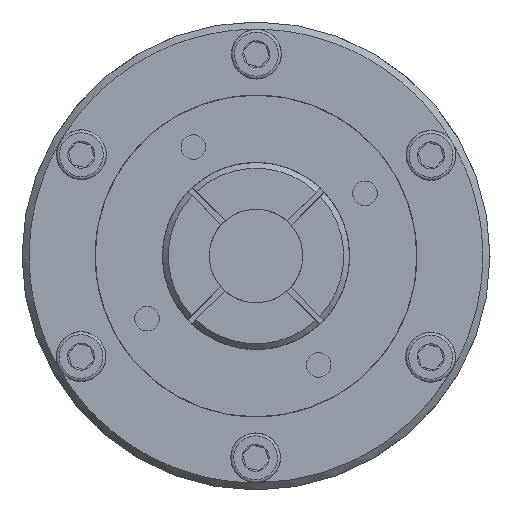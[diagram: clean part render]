
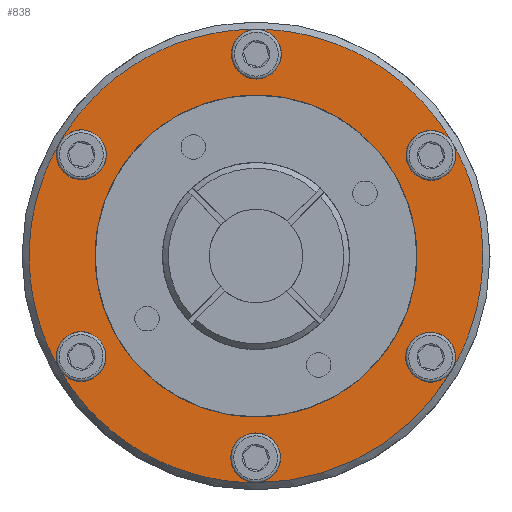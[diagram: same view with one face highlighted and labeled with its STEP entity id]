
A CAD part, left-side view. The second image highlights one B-rep face of the part: STEP entity #838.
In plain terms, the highlighted planar face has unit normal (-1, 0, 0).
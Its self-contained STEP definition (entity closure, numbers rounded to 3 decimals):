
#838 = ADVANCED_FACE( '', ( #1719, #1720 ), #1721, .F. );
#1719 = FACE_OUTER_BOUND( '', #2959, .T. );
#1720 = FACE_BOUND( '', #2960, .T. );
#1721 = PLANE( '', #2961 );
#2959 = EDGE_LOOP( '', ( #4808, #4809, #4810, #4811, #4812, #4813, #4814, #4815, #4816, #4817, #4818, #4819 ) );
#2960 = EDGE_LOOP( '', ( #4820 ) );
#2961 = AXIS2_PLACEMENT_3D( '', #4821, #4822, #4823 );
#4808 = ORIENTED_EDGE( '', *, *, #7612, .T. );
#4809 = ORIENTED_EDGE( '', *, *, #7605, .T. );
#4810 = ORIENTED_EDGE( '', *, *, #7613, .T. );
#4811 = ORIENTED_EDGE( '', *, *, #7604, .T. );
#4812 = ORIENTED_EDGE( '', *, *, #7610, .T. );
#4813 = ORIENTED_EDGE( '', *, *, #7609, .T. );
#4814 = ORIENTED_EDGE( '', *, *, #7614, .T. );
#4815 = ORIENTED_EDGE( '', *, *, #7608, .T. );
#4816 = ORIENTED_EDGE( '', *, *, #7615, .T. );
#4817 = ORIENTED_EDGE( '', *, *, #7607, .T. );
#4818 = ORIENTED_EDGE( '', *, *, #7616, .T. );
#4819 = ORIENTED_EDGE( '', *, *, #7606, .T. );
#4820 = ORIENTED_EDGE( '', *, *, #7617, .F. );
#4821 = CARTESIAN_POINT( '', ( -13.499, 40., 0. ) );
#4822 = DIRECTION( '', ( 1., 0., 0. ) );
#4823 = DIRECTION( '', ( 0., 1., 0. ) );
#7604 = EDGE_CURVE( '', #8758, #8759, #8760, .F. );
#7605 = EDGE_CURVE( '', #8761, #8758, #8762, .F. );
#7606 = EDGE_CURVE( '', #8763, #8761, #8764, .F. );
#7607 = EDGE_CURVE( '', #8765, #8763, #8766, .F. );
#7608 = EDGE_CURVE( '', #8767, #8765, #8768, .F. );
#7609 = EDGE_CURVE( '', #8759, #8767, #8769, .F. );
#7610 = EDGE_CURVE( '', #8759, #8759, #8770, .T. );
#7612 = EDGE_CURVE( '', #8761, #8761, #8773, .T. );
#7613 = EDGE_CURVE( '', #8758, #8758, #8774, .T. );
#7614 = EDGE_CURVE( '', #8767, #8767, #8775, .T. );
#7615 = EDGE_CURVE( '', #8765, #8765, #8776, .T. );
#7616 = EDGE_CURVE( '', #8763, #8763, #8777, .T. );
#7617 = EDGE_CURVE( '', #8778, #8778, #8779, .F. );
#8758 = VERTEX_POINT( '', #10446 );
#8759 = VERTEX_POINT( '', #10447 );
#8760 = CIRCLE( '', #10448, 38.75 );
#8761 = VERTEX_POINT( '', #10449 );
#8762 = CIRCLE( '', #10450, 38.75 );
#8763 = VERTEX_POINT( '', #10451 );
#8764 = CIRCLE( '', #10452, 38.75 );
#8765 = VERTEX_POINT( '', #10453 );
#8766 = CIRCLE( '', #10454, 38.75 );
#8767 = VERTEX_POINT( '', #10455 );
#8768 = CIRCLE( '', #10456, 38.75 );
#8769 = CIRCLE( '', #10457, 38.75 );
#8770 = CIRCLE( '', #10458, 4.25 );
#8773 = CIRCLE( '', #10461, 4.25 );
#8774 = CIRCLE( '', #10462, 4.25 );
#8775 = CIRCLE( '', #10463, 4.25 );
#8776 = CIRCLE( '', #10464, 4.25 );
#8777 = CIRCLE( '', #10465, 4.25 );
#8778 = VERTEX_POINT( '', #10466 );
#8779 = CIRCLE( '', #10467, 27.5 );
#10446 = CARTESIAN_POINT( '', ( -13.499, 33.558, 19.375 ) );
#10447 = CARTESIAN_POINT( '', ( -13.499, 33.558, -19.375 ) );
#10448 = AXIS2_PLACEMENT_3D( '', #12733, #12734, #12735 );
#10449 = CARTESIAN_POINT( '', ( -13.499, 0., 38.75 ) );
#10450 = AXIS2_PLACEMENT_3D( '', #12736, #12737, #12738 );
#10451 = CARTESIAN_POINT( '', ( -13.499, -33.558, 19.375 ) );
#10452 = AXIS2_PLACEMENT_3D( '', #12739, #12740, #12741 );
#10453 = CARTESIAN_POINT( '', ( -13.499, -33.558, -19.375 ) );
#10454 = AXIS2_PLACEMENT_3D( '', #12742, #12743, #12744 );
#10455 = CARTESIAN_POINT( '', ( -13.499, 0., -38.75 ) );
#10456 = AXIS2_PLACEMENT_3D( '', #12745, #12746, #12747 );
#10457 = AXIS2_PLACEMENT_3D( '', #12748, #12749, #12750 );
#10458 = AXIS2_PLACEMENT_3D( '', #12751, #12752, #12753 );
#10461 = AXIS2_PLACEMENT_3D( '', #12757, #12758, #12759 );
#10462 = AXIS2_PLACEMENT_3D( '', #12760, #12761, #12762 );
#10463 = AXIS2_PLACEMENT_3D( '', #12763, #12764, #12765 );
#10464 = AXIS2_PLACEMENT_3D( '', #12766, #12767, #12768 );
#10465 = AXIS2_PLACEMENT_3D( '', #12769, #12770, #12771 );
#10466 = CARTESIAN_POINT( '', ( -13.499, 0., -27.5 ) );
#10467 = AXIS2_PLACEMENT_3D( '', #12772, #12773, #12774 );
#12733 = CARTESIAN_POINT( '', ( -13.499, 0., 0. ) );
#12734 = DIRECTION( '', ( 1., 0., 0. ) );
#12735 = DIRECTION( '', ( 0., 0., -1. ) );
#12736 = CARTESIAN_POINT( '', ( -13.499, 0., 0. ) );
#12737 = DIRECTION( '', ( 1., 0., 0. ) );
#12738 = DIRECTION( '', ( 0., 0., -1. ) );
#12739 = CARTESIAN_POINT( '', ( -13.499, 0., 0. ) );
#12740 = DIRECTION( '', ( 1., 0., 0. ) );
#12741 = DIRECTION( '', ( 0., 0., -1. ) );
#12742 = CARTESIAN_POINT( '', ( -13.499, 0., 0. ) );
#12743 = DIRECTION( '', ( 1., 0., 0. ) );
#12744 = DIRECTION( '', ( 0., 0., -1. ) );
#12745 = CARTESIAN_POINT( '', ( -13.499, 0., 0. ) );
#12746 = DIRECTION( '', ( 1., 0., 0. ) );
#12747 = DIRECTION( '', ( 0., 0., -1. ) );
#12748 = CARTESIAN_POINT( '', ( -13.499, 0., 0. ) );
#12749 = DIRECTION( '', ( 1., 0., 0. ) );
#12750 = DIRECTION( '', ( 0., 0., -1. ) );
#12751 = CARTESIAN_POINT( '', ( -13.499, 29.878, -17.25 ) );
#12752 = DIRECTION( '', ( 1., 0., 0. ) );
#12753 = DIRECTION( '', ( 0., 0., -1. ) );
#12757 = CARTESIAN_POINT( '', ( -13.499, 0., 34.5 ) );
#12758 = DIRECTION( '', ( 1., 0., 0. ) );
#12759 = DIRECTION( '', ( 0., 0., -1. ) );
#12760 = CARTESIAN_POINT( '', ( -13.499, 29.878, 17.25 ) );
#12761 = DIRECTION( '', ( 1., 0., 0. ) );
#12762 = DIRECTION( '', ( 0., 0., -1. ) );
#12763 = CARTESIAN_POINT( '', ( -13.499, 0., -34.5 ) );
#12764 = DIRECTION( '', ( 1., 0., 0. ) );
#12765 = DIRECTION( '', ( 0., 0., -1. ) );
#12766 = CARTESIAN_POINT( '', ( -13.499, -29.878, -17.25 ) );
#12767 = DIRECTION( '', ( 1., 0., 0. ) );
#12768 = DIRECTION( '', ( 0., 0., -1. ) );
#12769 = CARTESIAN_POINT( '', ( -13.499, -29.878, 17.25 ) );
#12770 = DIRECTION( '', ( 1., 0., 0. ) );
#12771 = DIRECTION( '', ( 0., 0., -1. ) );
#12772 = CARTESIAN_POINT( '', ( -13.499, 0., 0. ) );
#12773 = DIRECTION( '', ( 1., 0., 0. ) );
#12774 = DIRECTION( '', ( 0., 0., -1. ) );
